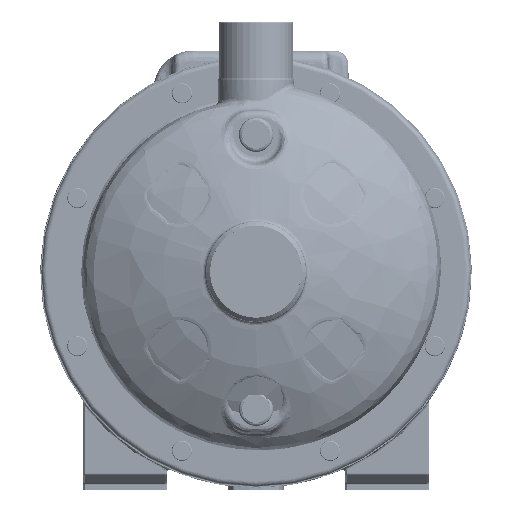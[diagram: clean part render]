
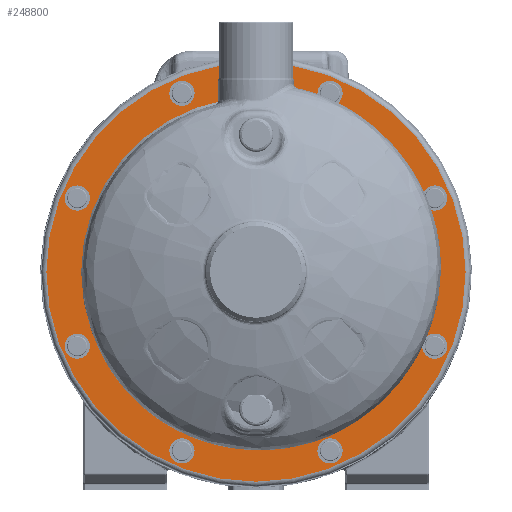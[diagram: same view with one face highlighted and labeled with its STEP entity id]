
A CAD part, top view. The second image highlights one B-rep face of the part: STEP entity #248800.
In plain terms, the highlighted planar face has unit normal (0, 0, 1).
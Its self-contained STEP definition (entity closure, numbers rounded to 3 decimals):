
#235669=CARTESIAN_POINT('',(0.,0.,
2.));
#235670=DIRECTION('',(0.,0.,1.));
#235671=DIRECTION('',(1.,0.,0.));
#235672=AXIS2_PLACEMENT_3D('',#235669,#235670,#235671);
#235674=CARTESIAN_POINT('',(0.,0.,
2.));
#235675=DIRECTION('',(0.,0.,1.));
#235676=DIRECTION('',(0.,-1.,0.));
#235677=AXIS2_PLACEMENT_3D('',#235674,#235675,#235676);
#235679=CARTESIAN_POINT('',(0.,0.,
2.));
#235680=DIRECTION('',(0.,0.,1.));
#235681=DIRECTION('',(-1.,0.,0.));
#235682=AXIS2_PLACEMENT_3D('',#235679,#235680,#235681);
#235684=CARTESIAN_POINT('',(0.,0.,
2.));
#235685=DIRECTION('',(0.,0.,1.));
#235686=DIRECTION('',(0.,1.,0.));
#235687=AXIS2_PLACEMENT_3D('',#235684,#235685,#235686);
#236498=CARTESIAN_POINT('',(104.,0.,2.));
#236499=VERTEX_POINT('',#236498);
#236500=CARTESIAN_POINT('',(-104.,0.,2.));
#236501=CARTESIAN_POINT('',(0.,-104.,2.));
#236502=VERTEX_POINT('',#236500);
#236503=VERTEX_POINT('',#236501);
#236504=CARTESIAN_POINT('',(0.,104.,2.));
#236505=VERTEX_POINT('',#236504);
#248787=CARTESIAN_POINT('',(-114.4,114.4,2.));
#248788=DIRECTION('',(0.,0.,1.));
#248789=DIRECTION('',(0.,-1.,0.));
#248790=AXIS2_PLACEMENT_3D('',#248787,#248788,#248789);
#248791=PLANE('',#248790);
#248793=ORIENTED_EDGE('',*,*,#248792,.F.);
#248794=ORIENTED_EDGE('',*,*,#248782,.F.);
#248795=ORIENTED_EDGE('',*,*,#248780,.F.);
#248797=ORIENTED_EDGE('',*,*,#248796,.F.);
#248798=EDGE_LOOP('',(#248793,#248794,#248795,#248797));
#248799=FACE_OUTER_BOUND('',#248798,.F.);
#248800=ADVANCED_FACE('',(#248799),#248791,.T.);
#235673=CIRCLE('',#235672,104.);
#235678=CIRCLE('',#235677,104.);
#235683=CIRCLE('',#235682,104.);
#235688=CIRCLE('',#235687,104.);
#248780=EDGE_CURVE('',#236502,#236503,#235683,.T.);
#248782=EDGE_CURVE('',#236503,#236499,#235678,.T.);
#248792=EDGE_CURVE('',#236499,#236505,#235673,.T.);
#248796=EDGE_CURVE('',#236505,#236502,#235688,.T.);
